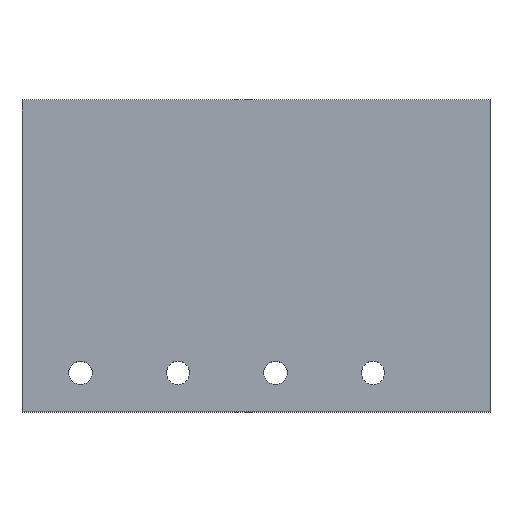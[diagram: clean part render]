
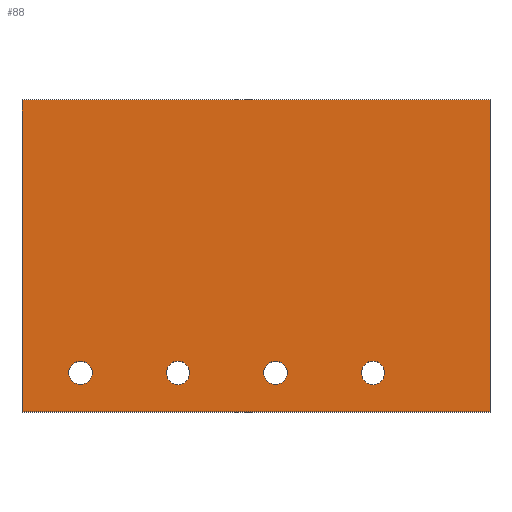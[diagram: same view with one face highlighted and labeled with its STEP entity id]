
A CAD part, top view. The second image highlights one B-rep face of the part: STEP entity #88.
In plain terms, the highlighted planar face has unit normal (0, 0, 1).
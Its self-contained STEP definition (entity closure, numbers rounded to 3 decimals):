
#24 = VERTEX_POINT('',#25);
#25 = CARTESIAN_POINT('',(0.,0.,10.));
#40 = VERTEX_POINT('',#41);
#41 = CARTESIAN_POINT('',(0.,80.,10.));
#47 = EDGE_CURVE('',#24,#40,#48,.T.);
#48 = LINE('',#49,#50);
#49 = CARTESIAN_POINT('',(0.,0.,10.));
#50 = VECTOR('',#51,1.);
#51 = DIRECTION('',(0.,1.,0.));
#70 = EDGE_CURVE('',#24,#71,#73,.T.);
#71 = VERTEX_POINT('',#72);
#72 = CARTESIAN_POINT('',(120.,0.,10.));
#73 = LINE('',#74,#75);
#74 = CARTESIAN_POINT('',(0.,0.,10.));
#75 = VECTOR('',#76,1.);
#76 = DIRECTION('',(1.,0.,0.));
#88 = ADVANCED_FACE('',(#89,#107,#118,#129,#140),#151,.T.);
#89 = FACE_BOUND('',#90,.T.);
#90 = EDGE_LOOP('',(#91,#92,#93,#101));
#91 = ORIENTED_EDGE('',*,*,#47,.F.);
#92 = ORIENTED_EDGE('',*,*,#70,.T.);
#93 = ORIENTED_EDGE('',*,*,#94,.T.);
#94 = EDGE_CURVE('',#71,#95,#97,.T.);
#95 = VERTEX_POINT('',#96);
#96 = CARTESIAN_POINT('',(120.,80.,10.));
#97 = LINE('',#98,#99);
#98 = CARTESIAN_POINT('',(120.,0.,10.));
#99 = VECTOR('',#100,1.);
#100 = DIRECTION('',(0.,1.,0.));
#101 = ORIENTED_EDGE('',*,*,#102,.F.);
#102 = EDGE_CURVE('',#40,#95,#103,.T.);
#103 = LINE('',#104,#105);
#104 = CARTESIAN_POINT('',(0.,80.,10.));
#105 = VECTOR('',#106,1.);
#106 = DIRECTION('',(1.,0.,0.));
#107 = FACE_BOUND('',#108,.T.);
#108 = EDGE_LOOP('',(#109));
#109 = ORIENTED_EDGE('',*,*,#110,.F.);
#110 = EDGE_CURVE('',#111,#111,#113,.T.);
#111 = VERTEX_POINT('',#112);
#112 = CARTESIAN_POINT('',(18.,10.,10.));
#113 = CIRCLE('',#114,3.);
#114 = AXIS2_PLACEMENT_3D('',#115,#116,#117);
#115 = CARTESIAN_POINT('',(15.,10.,10.));
#116 = DIRECTION('',(0.,0.,1.));
#117 = DIRECTION('',(1.,0.,0.));
#118 = FACE_BOUND('',#119,.T.);
#119 = EDGE_LOOP('',(#120));
#120 = ORIENTED_EDGE('',*,*,#121,.F.);
#121 = EDGE_CURVE('',#122,#122,#124,.T.);
#122 = VERTEX_POINT('',#123);
#123 = CARTESIAN_POINT('',(43.,10.,10.));
#124 = CIRCLE('',#125,3.);
#125 = AXIS2_PLACEMENT_3D('',#126,#127,#128);
#126 = CARTESIAN_POINT('',(40.,10.,10.));
#127 = DIRECTION('',(0.,0.,1.));
#128 = DIRECTION('',(1.,0.,0.));
#129 = FACE_BOUND('',#130,.T.);
#130 = EDGE_LOOP('',(#131));
#131 = ORIENTED_EDGE('',*,*,#132,.F.);
#132 = EDGE_CURVE('',#133,#133,#135,.T.);
#133 = VERTEX_POINT('',#134);
#134 = CARTESIAN_POINT('',(68.,10.,10.));
#135 = CIRCLE('',#136,3.);
#136 = AXIS2_PLACEMENT_3D('',#137,#138,#139);
#137 = CARTESIAN_POINT('',(65.,10.,10.));
#138 = DIRECTION('',(0.,0.,1.));
#139 = DIRECTION('',(1.,0.,0.));
#140 = FACE_BOUND('',#141,.T.);
#141 = EDGE_LOOP('',(#142));
#142 = ORIENTED_EDGE('',*,*,#143,.F.);
#143 = EDGE_CURVE('',#144,#144,#146,.T.);
#144 = VERTEX_POINT('',#145);
#145 = CARTESIAN_POINT('',(93.,10.,10.));
#146 = CIRCLE('',#147,3.);
#147 = AXIS2_PLACEMENT_3D('',#148,#149,#150);
#148 = CARTESIAN_POINT('',(90.,10.,10.));
#149 = DIRECTION('',(0.,0.,1.));
#150 = DIRECTION('',(1.,0.,0.));
#151 = PLANE('',#152);
#152 = AXIS2_PLACEMENT_3D('',#153,#154,#155);
#153 = CARTESIAN_POINT('',(0.,0.,10.));
#154 = DIRECTION('',(0.,0.,1.));
#155 = DIRECTION('',(1.,0.,0.));
